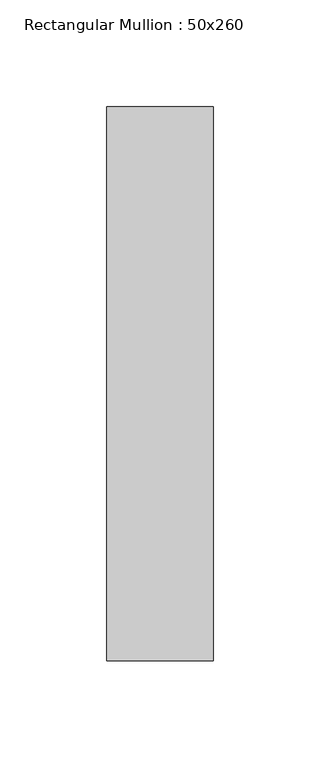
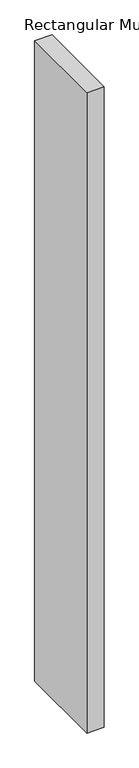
"""IFC4 building model written with IfcOpenShell, lengths in millimetres: member geometry, Rectangular Mullion : 50x260."""

import ifcopenshell
import ifcopenshell.guid

model = None  # the IFC model being written
_history = None  # IfcOwnerHistory: only IFC2X3 demands one
_inside = {}  # id of a spatial element -> (the spatial element, [elements in it])
_under = {}  # id of a project, library or spatial element -> (it, [spatial elements below it])
_declared = {}  # id of a project -> (the project, [libraries it declares])
_typed = {}  # id of a type object -> (the type object, [elements of that type])
_made_of = {}  # id of a material, layer set ... -> (it, [elements and type objects made of it])


def new_model(schema):
    """Start an empty IFC model of exactly this schema.

    Asked for "IFC4X3", IfcOpenShell would pick the latest addendum, in which some entities
    have other attributes; the version numbers below select the first issue.
    IFC2X3 requires an IfcOwnerHistory on every rooted entity: one is made here for all.
    """
    global model, _history
    if schema == "IFC4X3":
        model = ifcopenshell.file(schema_version=(4, 3, 0, 0))
    else:
        model = ifcopenshell.file(schema=schema)
    _inside.clear()
    _under.clear()
    _declared.clear()
    _typed.clear()
    _made_of.clear()
    _history = None
    if model.schema == "IFC2X3":
        org = make("IfcOrganization", Name="unknown")
        user = make(
            "IfcPersonAndOrganization",
            ThePerson=make("IfcPerson", FamilyName="unknown"),
            TheOrganization=org,
        )
        app = make(
            "IfcApplication",
            ApplicationDeveloper=org,
            Version="unknown",
            ApplicationFullName="unknown",
            ApplicationIdentifier="unknown",
        )
        _history = make(
            "IfcOwnerHistory",
            OwningUser=user,
            OwningApplication=app,
            ChangeAction="ADDED",
            CreationDate=0,
        )
    return model


def make(cls, **values):
    """One entity of the class cls with the attributes given. An attribute that is None is left unset."""
    return model.create_entity(
        cls, **{name: value for name, value in values.items() if value is not None}
    )


def rooted(cls, **values):
    """An entity with a GlobalId (a new one), such as an element, a storey or a relation."""
    return make(cls, GlobalId=ifcopenshell.guid.new(), OwnerHistory=_history, **values)


def si_unit(unit_type, name, prefix=None):
    """IfcSIUnit, for example si_unit("LENGTHUNIT", "METRE", prefix="MILLI")."""
    return make("IfcSIUnit", UnitType=unit_type, Prefix=prefix, Name=name)


def assignment(units):
    """IfcUnitAssignment: the units of a project."""
    return None if units is None else make("IfcUnitAssignment", Units=units)


def point(xyz):
    """IfcCartesianPoint."""
    return None if xyz is None else make("IfcCartesianPoint", Coordinates=xyz)


def direction(xyz):
    """IfcDirection."""
    return None if xyz is None else make("IfcDirection", DirectionRatios=xyz)


def frame(location, z_axis=None, x_axis=None):
    """IfcAxis2Placement3D, a coordinate frame: its origin and axes. An axis left out is left unset."""
    return make(
        "IfcAxis2Placement3D",
        Location=point(location),
        Axis=direction(z_axis),
        RefDirection=direction(x_axis),
    )


def origin():
    """The frame at (0, 0, 0) with its axes left unset."""
    return frame((0.0, 0.0, 0.0))


def place(relative_to, where):
    """IfcLocalPlacement: puts the frame where relative to a parent placement (None: the world)."""
    return make(
        "IfcLocalPlacement", PlacementRelTo=relative_to, RelativePlacement=where
    )


def context(
    kind, dimensions, precision=None, world=None, true_north=None, identifier=None
):
    """IfcGeometricRepresentationContext, for example the 3D "Model" context."""
    return make(
        "IfcGeometricRepresentationContext",
        ContextIdentifier=identifier,
        ContextType=kind,
        CoordinateSpaceDimension=dimensions,
        Precision=precision,
        WorldCoordinateSystem=world,
        TrueNorth=true_north,
    )


def project(units=None, contexts=None):
    """IfcProject with its units and contexts."""
    return rooted(
        "IfcProject",
        Name="project",
        RepresentationContexts=contexts,
        UnitsInContext=assignment(units),
    )


def spatial(cls, under=None, at=None, **own):
    """A site, building, storey or space (cls), placed at a placement, below another one or the project."""
    s = rooted(cls, ObjectPlacement=at, **own)
    if under is not None:
        _under.setdefault(under.id(), (under, []))[1].append(s)
    return s


def polyline(points):
    """IfcPolyline through the points."""
    return make("IfcPolyline", Points=[point(p) for p in points])


def outline(outer, holes=None, kind="AREA"):
    """IfcArbitraryClosedProfileDef: a profile drawn as a closed curve; with holes, ...WithVoids."""
    if holes is None:
        return make("IfcArbitraryClosedProfileDef", ProfileType=kind, OuterCurve=outer)
    return make(
        "IfcArbitraryProfileDefWithVoids",
        ProfileType=kind,
        OuterCurve=outer,
        InnerCurves=holes,
    )


def extrude(swept, where, along, depth):
    """IfcExtrudedAreaSolid: the profile swept, set in the frame where, extruded along a direction by depth."""
    return make(
        "IfcExtrudedAreaSolid",
        SweptArea=swept,
        Position=where,
        ExtrudedDirection=direction(along),
        Depth=depth,
    )


def shape(context_of_items, identifier, shape_type, items):
    """IfcShapeRepresentation: the items that make up one representation, for example the "Body"."""
    return make(
        "IfcShapeRepresentation",
        ContextOfItems=context_of_items,
        RepresentationIdentifier=identifier,
        RepresentationType=shape_type,
        Items=items,
    )


def source(mapping_origin, context_of_items, identifier, shape_type, items):
    """IfcRepresentationMap: a shape defined once, which mapped items show again and again."""
    return make(
        "IfcRepresentationMap",
        MappingOrigin=mapping_origin,
        MappedRepresentation=shape(context_of_items, identifier, shape_type, items),
    )


def transform(
    local_origin,
    x_axis=None,
    y_axis=None,
    z_axis=None,
    scale=None,
    scale2=None,
    scale3=None,
    uniform=True,
):
    """IfcCartesianTransformationOperator3D, or its non-uniform kind. x_axis, y_axis, z_axis: its Axis1, 2, 3."""
    if uniform:
        return make(
            "IfcCartesianTransformationOperator3D",
            Axis1=direction(x_axis),
            Axis2=direction(y_axis),
            LocalOrigin=point(local_origin),
            Scale=scale,
            Axis3=direction(z_axis),
        )
    return make(
        "IfcCartesianTransformationOperator3DnonUniform",
        Axis1=direction(x_axis),
        Axis2=direction(y_axis),
        LocalOrigin=point(local_origin),
        Scale=scale,
        Axis3=direction(z_axis),
        Scale2=scale2,
        Scale3=scale3,
    )


def mapped(mapping_source, mapping_target):
    """IfcMappedItem: shows the shape of a source again, moved by a transform."""
    return make(
        "IfcMappedItem", MappingSource=mapping_source, MappingTarget=mapping_target
    )


def made_of(thing, what):
    """Note that an element or type object is made of a material, layer set ...; save() writes the relation."""
    if what is not None:
        _made_of.setdefault(what.id(), (what, []))[1].append(thing)
    return thing


def element(
    cls,
    number,
    at=None,
    inside=None,
    cuts=None,
    type_object=None,
    material=None,
    context=None,
    identifier="Body",
    shape_type=None,
    held_by="IfcProductDefinitionShape",
    body=None,
    shapes=None,
    **own,
):
    """One element of the class cls, such as IfcWall. Its Tag is "e" and its number.

    at: its placement. inside: the storey or other place that contains it. cuts: it is an
    opening in that element (IfcRelVoidsElement). A single representation is given by context,
    identifier, shape_type and body (its items); several are given by shapes. held_by: the class
    of the entity that holds the representations. save() writes the other relations.
    """
    e = rooted(cls, Tag="e%d" % number, ObjectPlacement=at, **own)
    if body is not None:
        shapes = [shape(context, identifier, shape_type, body)]
    if shapes is not None:
        e.Representation = make(held_by, Representations=shapes)
    if inside is not None:
        _inside.setdefault(inside.id(), (inside, []))[1].append(e)
    if cuts is not None:
        rooted(
            "IfcRelVoidsElement", RelatingBuildingElement=cuts, RelatedOpeningElement=e
        )
    if type_object is not None:
        _typed.setdefault(type_object.id(), (type_object, []))[1].append(e)
    return made_of(e, material)


def aggregate(whole, parts):
    """IfcRelAggregates: a whole, such as a stair, and the parts it consists of."""
    return rooted("IfcRelAggregates", RelatingObject=whole, RelatedObjects=parts)


def save(model, path):
    """Write the relations noted so far, then the file.

    IfcRelAggregates (storeys below a building ...), IfcRelContainedInSpatialStructure (elements
    in a storey), IfcRelDefinesByType, IfcRelAssociatesMaterial and IfcRelDeclares: one each for
    every whole, place, type object, material and project.
    """
    for whole, parts in _under.values():
        aggregate(whole, parts)
    for where, things in _inside.values():
        rooted(
            "IfcRelContainedInSpatialStructure",
            RelatedElements=things,
            RelatingStructure=where,
        )
    for kind, things in _typed.values():
        rooted("IfcRelDefinesByType", RelatedObjects=things, RelatingType=kind)
    for what, things in _made_of.values():
        rooted("IfcRelAssociatesMaterial", RelatedObjects=things, RelatingMaterial=what)
    for by, libraries in _declared.values():
        rooted("IfcRelDeclares", RelatingContext=by, RelatedDefinitions=libraries)
    model.write(path)


def rectangular_mullion_50x260_245ed270(model_context):
    return source(origin(), model_context, "Body", "SweptSolid", [
        extrude(outline(polyline([(0.0, 130.0), (0.0, -130.0), (-50.0, -130.0), (-50.0, 130.0), (0.0, 130.0)])), frame((0.0, 0.0, -1947.8938483), z_axis=(0.0, 0.0, 1.0), x_axis=(1.0, 0.0, 0.0)), (0.0, 0.0, 1.0), 1947.8938483),
    ])


if __name__ == "__main__":
    model = new_model("IFC4")
    model_context = context("Model", 3, world=origin())
    ifc_project = project(units=[si_unit("LENGTHUNIT", "METRE", prefix="MILLI")], contexts=[model_context])
    site = spatial("IfcSite", under=ifc_project)
    building = spatial("IfcBuilding", under=site)
    placement = place(None, origin())
    rectangular_mullion_50x260_shape = rectangular_mullion_50x260_245ed270(model_context)
    element("IfcMember", 1, ObjectType="Rectangular Mullion : 50x260", at=placement, inside=building, context=model_context, shape_type="MappedRepresentation", body=[
        mapped(rectangular_mullion_50x260_shape, transform((0.0, 0.0, 0.0), x_axis=(1.0, 0.0, 0.0), y_axis=(0.0, 1.0, 0.0), z_axis=(0.0, 0.0, 1.0))),
    ])
    save(model, "model.ifc")
